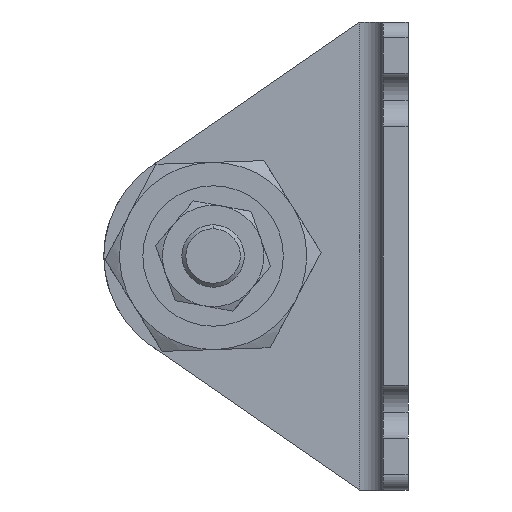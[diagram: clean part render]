
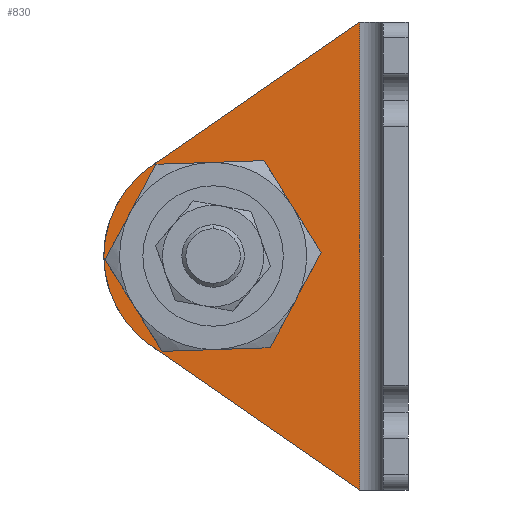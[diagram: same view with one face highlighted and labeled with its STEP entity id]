
A CAD part, left-side view. The second image highlights one B-rep face of the part: STEP entity #830.
In plain terms, the highlighted planar face has unit normal (-1, 0, 0) as drawn and (1, 0, 0) by its records, which use the part's own axes.
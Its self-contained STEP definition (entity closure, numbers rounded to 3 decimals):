
#114 = ORIENTED_EDGE ( 'NONE', *, *, #3159, .T. ) ;
#117 = CARTESIAN_POINT ( 'NONE',  ( 3.2, 25., -30. ) ) ;
#209 = ORIENTED_EDGE ( 'NONE', *, *, #1553, .F. ) ;
#249 = CIRCLE ( 'NONE', #2530, 14. ) ;
#375 = PLANE ( 'NONE',  #1867 ) ;
#404 = DIRECTION ( 'NONE',  ( 1., 0., 0. ) ) ;
#414 = DIRECTION ( 'NONE',  ( 1., 0., 0. ) ) ;
#420 = DIRECTION ( 'NONE',  ( 0., 1., 0. ) ) ;
#456 = CARTESIAN_POINT ( 'NONE',  ( 3.2, 32.226, -17.976 ) ) ;
#590 = ORIENTED_EDGE ( 'NONE', *, *, #1980, .T. ) ;
#635 = VERTEX_POINT ( 'NONE', #2558 ) ;
#681 = VERTEX_POINT ( 'NONE', #1359 ) ;
#684 = CARTESIAN_POINT ( 'NONE',  ( 3.2, 39., -30. ) ) ;
#738 = ORIENTED_EDGE ( 'NONE', *, *, #4005, .F. ) ;
#793 = AXIS2_PLACEMENT_3D ( 'NONE', #1287, #1602, #3753 ) ;
#830 = ADVANCED_FACE ( 'NONE', ( #3900, #3087 ), #375, .T. ) ;
#1037 = DIRECTION ( 'NONE',  ( 1., 0., 0. ) ) ;
#1125 = VERTEX_POINT ( 'NONE', #1418 ) ;
#1147 = LINE ( 'NONE', #2982, #2395 ) ;
#1287 = CARTESIAN_POINT ( 'NONE',  ( 3.2, 25., -30. ) ) ;
#1359 = CARTESIAN_POINT ( 'NONE',  ( 3.2, 6.2, -60. ) ) ;
#1388 = VERTEX_POINT ( 'NONE', #684 ) ;
#1418 = CARTESIAN_POINT ( 'NONE',  ( 3.2, 15.5, -30. ) ) ;
#1446 = CARTESIAN_POINT ( 'NONE',  ( 3.2, 25., -30. ) ) ;
#1507 = ORIENTED_EDGE ( 'NONE', *, *, #1703, .T. ) ;
#1529 = CARTESIAN_POINT ( 'NONE',  ( 3.2, 4.169, -61.403 ) ) ;
#1553 = EDGE_CURVE ( 'NONE', #2763, #1923, #3799, .T. ) ;
#1602 = DIRECTION ( 'NONE',  ( 1., 0., 0. ) ) ;
#1638 = CARTESIAN_POINT ( 'NONE',  ( 3.2, 6.2, 0. ) ) ;
#1674 = DIRECTION ( 'NONE',  ( 0., 1., 0. ) ) ;
#1703 = EDGE_CURVE ( 'NONE', #681, #2600, #3236, .T. ) ;
#1867 = AXIS2_PLACEMENT_3D ( 'NONE', #2631, #1037, #1674 ) ;
#1889 = EDGE_CURVE ( 'NONE', #1388, #1923, #249, .T. ) ;
#1923 = VERTEX_POINT ( 'NONE', #1994 ) ;
#1970 = DIRECTION ( 'NONE',  ( 0., 1., 0. ) ) ;
#1980 = EDGE_CURVE ( 'NONE', #2763, #681, #1147, .T. ) ;
#1994 = CARTESIAN_POINT ( 'NONE',  ( 3.2, 32.956, -18.481 ) ) ;
#2063 = CARTESIAN_POINT ( 'NONE',  ( 3.2, 32.956, -41.519 ) ) ;
#2065 = DIRECTION ( 'NONE',  ( 0., 1., 0. ) ) ;
#2135 = DIRECTION ( 'NONE',  ( 0., 0., -1. ) ) ;
#2160 = VECTOR ( 'NONE', #3096, 1000. ) ;
#2182 = AXIS2_PLACEMENT_3D ( 'NONE', #2881, #404, #420 ) ;
#2282 = EDGE_LOOP ( 'NONE', ( #738, #3559 ) ) ;
#2354 = DIRECTION ( 'NONE',  ( 0., 0.823, -0.568 ) ) ;
#2395 = VECTOR ( 'NONE', #2135, 1000. ) ;
#2436 = VECTOR ( 'NONE', #2354, 1000. ) ;
#2529 = CIRCLE ( 'NONE', #2182, 9.5 ) ;
#2530 = AXIS2_PLACEMENT_3D ( 'NONE', #117, #414, #1970 ) ;
#2558 = CARTESIAN_POINT ( 'NONE',  ( 3.2, 34.5, -30. ) ) ;
#2600 = VERTEX_POINT ( 'NONE', #2063 ) ;
#2631 = CARTESIAN_POINT ( 'NONE',  ( 3.2, 3.2, -60. ) ) ;
#2691 = CIRCLE ( 'NONE', #793, 14. ) ;
#2763 = VERTEX_POINT ( 'NONE', #1638 ) ;
#2881 = CARTESIAN_POINT ( 'NONE',  ( 3.2, 25., -30. ) ) ;
#2886 = EDGE_LOOP ( 'NONE', ( #1507, #114, #3479, #209, #590 ) ) ;
#2928 = CIRCLE ( 'NONE', #3052, 9.5 ) ;
#2982 = CARTESIAN_POINT ( 'NONE',  ( 3.2, 6.2, -60. ) ) ;
#3052 = AXIS2_PLACEMENT_3D ( 'NONE', #1446, #3604, #2065 ) ;
#3087 = FACE_OUTER_BOUND ( 'NONE', #2886, .T. ) ;
#3096 = DIRECTION ( 'NONE',  ( 0., 0.823, 0.568 ) ) ;
#3159 = EDGE_CURVE ( 'NONE', #2600, #1388, #2691, .T. ) ;
#3211 = EDGE_CURVE ( 'NONE', #1125, #635, #2529, .T. ) ;
#3236 = LINE ( 'NONE', #1529, #2160 ) ;
#3479 = ORIENTED_EDGE ( 'NONE', *, *, #1889, .T. ) ;
#3559 = ORIENTED_EDGE ( 'NONE', *, *, #3211, .F. ) ;
#3604 = DIRECTION ( 'NONE',  ( 1., 0., 0. ) ) ;
#3753 = DIRECTION ( 'NONE',  ( 0., 1., 0. ) ) ;
#3799 = LINE ( 'NONE', #456, #2436 ) ;
#3900 = FACE_BOUND ( 'NONE', #2282, .T. ) ;
#4005 = EDGE_CURVE ( 'NONE', #635, #1125, #2928, .T. ) ;
